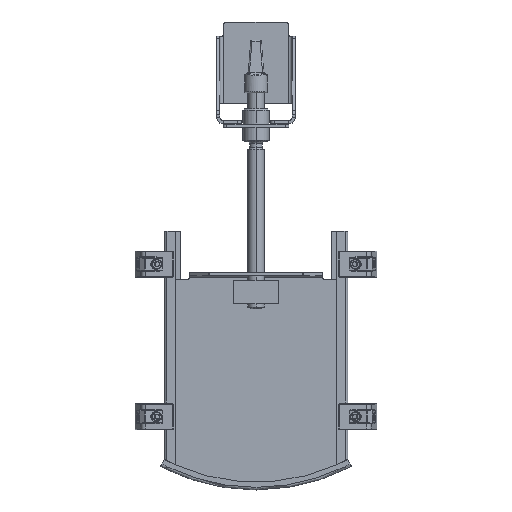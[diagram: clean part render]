
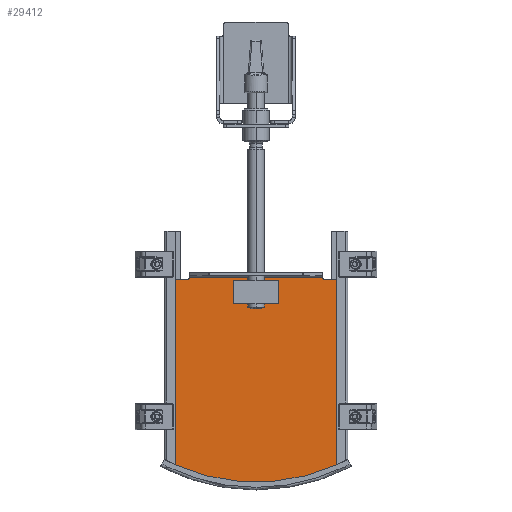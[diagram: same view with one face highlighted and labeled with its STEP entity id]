
A CAD part, top view. The second image highlights one B-rep face of the part: STEP entity #29412.
In plain terms, the highlighted planar face has unit normal (0, 0, 1).
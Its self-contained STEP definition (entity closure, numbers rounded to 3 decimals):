
#71 = LINE ( 'NONE', #22353, #13377 ) ;
#499 = DIRECTION ( 'NONE',  ( 0., -1., 0. ) ) ;
#560 = DIRECTION ( 'NONE',  ( 1., 0., 0. ) ) ;
#2038 = AXIS2_PLACEMENT_3D ( 'NONE', #26543, #32095, #18466 ) ;
#2041 = ORIENTED_EDGE ( 'NONE', *, *, #11209, .T. ) ;
#2369 = CARTESIAN_POINT ( 'NONE',  ( -122.9, 310., 33. ) ) ;
#2535 = CARTESIAN_POINT ( 'NONE',  ( 122.9, 26.329, 33. ) ) ;
#3780 = DIRECTION ( 'NONE',  ( 0., -1., 0. ) ) ;
#4096 = VERTEX_POINT ( 'NONE', #2369 ) ;
#6331 = LINE ( 'NONE', #19963, #27161 ) ;
#6500 = ORIENTED_EDGE ( 'NONE', *, *, #15673, .F. ) ;
#6864 = DIRECTION ( 'NONE',  ( 0., 1., 0. ) ) ;
#7367 = ORIENTED_EDGE ( 'NONE', *, *, #15342, .F. ) ;
#7406 = DIRECTION ( 'NONE',  ( 1., 0., 0. ) ) ;
#8162 = ORIENTED_EDGE ( 'NONE', *, *, #21108, .T. ) ;
#8455 = CARTESIAN_POINT ( 'NONE',  ( -122.9, -12.001, 33. ) ) ;
#8567 = DIRECTION ( 'NONE',  ( -1., 0., 0. ) ) ;
#8852 = EDGE_CURVE ( 'NONE', #18385, #34248, #15820, .T. ) ;
#9323 = VECTOR ( 'NONE', #7406, 1000. ) ;
#9629 = VECTOR ( 'NONE', #3780, 1000. ) ;
#9808 = CARTESIAN_POINT ( 'NONE',  ( -34., 307.5, 33. ) ) ;
#10011 = CARTESIAN_POINT ( 'NONE',  ( -34., 272.5, 33. ) ) ;
#10164 = CARTESIAN_POINT ( 'NONE',  ( 34., 307.5, 33. ) ) ;
#10345 = ORIENTED_EDGE ( 'NONE', *, *, #22797, .T. ) ;
#10690 = PLANE ( 'NONE',  #22847 ) ;
#10810 = EDGE_CURVE ( 'NONE', #25804, #29291, #71, .T. ) ;
#11209 = EDGE_CURVE ( 'NONE', #29291, #30123, #22055, .T. ) ;
#12725 = ORIENTED_EDGE ( 'NONE', *, *, #15301, .F. ) ;
#13270 = ORIENTED_EDGE ( 'NONE', *, *, #30572, .T. ) ;
#13339 = DIRECTION ( 'NONE',  ( 1., 0., 0. ) ) ;
#13377 = VECTOR ( 'NONE', #8567, 1000. ) ;
#13892 = CARTESIAN_POINT ( 'NONE',  ( 102., 312., 33. ) ) ;
#14118 = EDGE_CURVE ( 'NONE', #20730, #4096, #26396, .T. ) ;
#14766 = CARTESIAN_POINT ( 'NONE',  ( -34., 307.5, 33. ) ) ;
#14808 = CARTESIAN_POINT ( 'NONE',  ( 34., 272.5, 33. ) ) ;
#14975 = VERTEX_POINT ( 'NONE', #14808 ) ;
#15081 = CARTESIAN_POINT ( 'NONE',  ( 122.9, -12.001, 33. ) ) ;
#15094 = DIRECTION ( 'NONE',  ( -1., 0., 0. ) ) ;
#15301 = EDGE_CURVE ( 'NONE', #21211, #22438, #28567, .T. ) ;
#15342 = EDGE_CURVE ( 'NONE', #24726, #21211, #26059, .T. ) ;
#15514 = CARTESIAN_POINT ( 'NONE',  ( 104., 310., 33. ) ) ;
#15673 = EDGE_CURVE ( 'NONE', #14975, #24726, #23771, .T. ) ;
#15820 = CIRCLE ( 'NONE', #20451, 300. ) ;
#16391 = CARTESIAN_POINT ( 'NONE',  ( -130., 31.851, 33. ) ) ;
#17474 = CARTESIAN_POINT ( 'NONE',  ( -123.172, 310., 33. ) ) ;
#17707 = EDGE_CURVE ( 'NONE', #26247, #30123, #6331, .T. ) ;
#17781 = DIRECTION ( 'NONE',  ( 1., 0., 0. ) ) ;
#18202 = ORIENTED_EDGE ( 'NONE', *, *, #17707, .F. ) ;
#18385 = VERTEX_POINT ( 'NONE', #34855 ) ;
#18466 = DIRECTION ( 'NONE',  ( 1., 0., 0. ) ) ;
#19086 = FACE_BOUND ( 'NONE', #32318, .T. ) ;
#19269 = FACE_OUTER_BOUND ( 'NONE', #24872, .T. ) ;
#19357 = VECTOR ( 'NONE', #15094, 1000. ) ;
#19963 = CARTESIAN_POINT ( 'NONE',  ( -130., 312., 33. ) ) ;
#20451 = AXIS2_PLACEMENT_3D ( 'NONE', #22670, #27348, #560 ) ;
#20684 = CARTESIAN_POINT ( 'NONE',  ( -34., 272.5, 33. ) ) ;
#20730 = VERTEX_POINT ( 'NONE', #28071 ) ;
#20900 = ORIENTED_EDGE ( 'NONE', *, *, #35288, .F. ) ;
#20951 = CARTESIAN_POINT ( 'NONE',  ( -102., 312., 33. ) ) ;
#21108 = EDGE_CURVE ( 'NONE', #26247, #20730, #29598, .T. ) ;
#21164 = CARTESIAN_POINT ( 'NONE',  ( 34., 307.5, 33. ) ) ;
#21211 = VERTEX_POINT ( 'NONE', #9808 ) ;
#22055 = CIRCLE ( 'NONE', #31230, 2. ) ;
#22353 = CARTESIAN_POINT ( 'NONE',  ( 123.172, 310., 33. ) ) ;
#22438 = VERTEX_POINT ( 'NONE', #10011 ) ;
#22670 = CARTESIAN_POINT ( 'NONE',  ( 0., 300., 33. ) ) ;
#22797 = EDGE_CURVE ( 'NONE', #4096, #18385, #34932, .T. ) ;
#22809 = VECTOR ( 'NONE', #499, 1000. ) ;
#22847 = AXIS2_PLACEMENT_3D ( 'NONE', #16391, #27000, #13339 ) ;
#23219 = DIRECTION ( 'NONE',  ( 0., 1., 0. ) ) ;
#23771 = LINE ( 'NONE', #10164, #29086 ) ;
#23939 = CARTESIAN_POINT ( 'NONE',  ( 122.9, 310., 33. ) ) ;
#24726 = VERTEX_POINT ( 'NONE', #21164 ) ;
#24872 = EDGE_LOOP ( 'NONE', ( #29945, #13270, #34254, #2041, #18202, #8162, #26097, #10345 ) ) ;
#25804 = VERTEX_POINT ( 'NONE', #23939 ) ;
#26059 = LINE ( 'NONE', #14766, #19357 ) ;
#26097 = ORIENTED_EDGE ( 'NONE', *, *, #14118, .T. ) ;
#26247 = VERTEX_POINT ( 'NONE', #20951 ) ;
#26396 = LINE ( 'NONE', #17474, #31250 ) ;
#26543 = CARTESIAN_POINT ( 'NONE',  ( -104., 312., 33. ) ) ;
#26944 = DIRECTION ( 'NONE',  ( 0., 0., -1. ) ) ;
#27000 = DIRECTION ( 'NONE',  ( 0., 0., 1. ) ) ;
#27161 = VECTOR ( 'NONE', #17781, 1000. ) ;
#27348 = DIRECTION ( 'NONE',  ( 0., 0., 1. ) ) ;
#27637 = DIRECTION ( 'NONE',  ( 1., 0., 0. ) ) ;
#28071 = CARTESIAN_POINT ( 'NONE',  ( -104., 310., 33. ) ) ;
#28567 = LINE ( 'NONE', #28928, #9629 ) ;
#28928 = CARTESIAN_POINT ( 'NONE',  ( -34., 307.5, 33. ) ) ;
#29086 = VECTOR ( 'NONE', #23219, 1000. ) ;
#29291 = VERTEX_POINT ( 'NONE', #15514 ) ;
#29412 = ADVANCED_FACE ( 'NONE', ( #19269, #19086 ), #10690, .T. ) ;
#29598 = CIRCLE ( 'NONE', #2038, 2. ) ;
#29844 = CARTESIAN_POINT ( 'NONE',  ( 104., 312., 33. ) ) ;
#29945 = ORIENTED_EDGE ( 'NONE', *, *, #8852, .T. ) ;
#30123 = VERTEX_POINT ( 'NONE', #13892 ) ;
#30572 = EDGE_CURVE ( 'NONE', #34248, #25804, #33528, .T. ) ;
#31230 = AXIS2_PLACEMENT_3D ( 'NONE', #29844, #26944, #27637 ) ;
#31250 = VECTOR ( 'NONE', #32110, 1000. ) ;
#31490 = VECTOR ( 'NONE', #6864, 1000. ) ;
#31962 = LINE ( 'NONE', #20684, #9323 ) ;
#32095 = DIRECTION ( 'NONE',  ( 0., 0., -1. ) ) ;
#32110 = DIRECTION ( 'NONE',  ( -1., 0., 0. ) ) ;
#32318 = EDGE_LOOP ( 'NONE', ( #12725, #7367, #6500, #20900 ) ) ;
#33528 = LINE ( 'NONE', #15081, #31490 ) ;
#34248 = VERTEX_POINT ( 'NONE', #2535 ) ;
#34254 = ORIENTED_EDGE ( 'NONE', *, *, #10810, .T. ) ;
#34855 = CARTESIAN_POINT ( 'NONE',  ( -122.9, 26.329, 33. ) ) ;
#34932 = LINE ( 'NONE', #8455, #22809 ) ;
#35288 = EDGE_CURVE ( 'NONE', #22438, #14975, #31962, .T. ) ;
